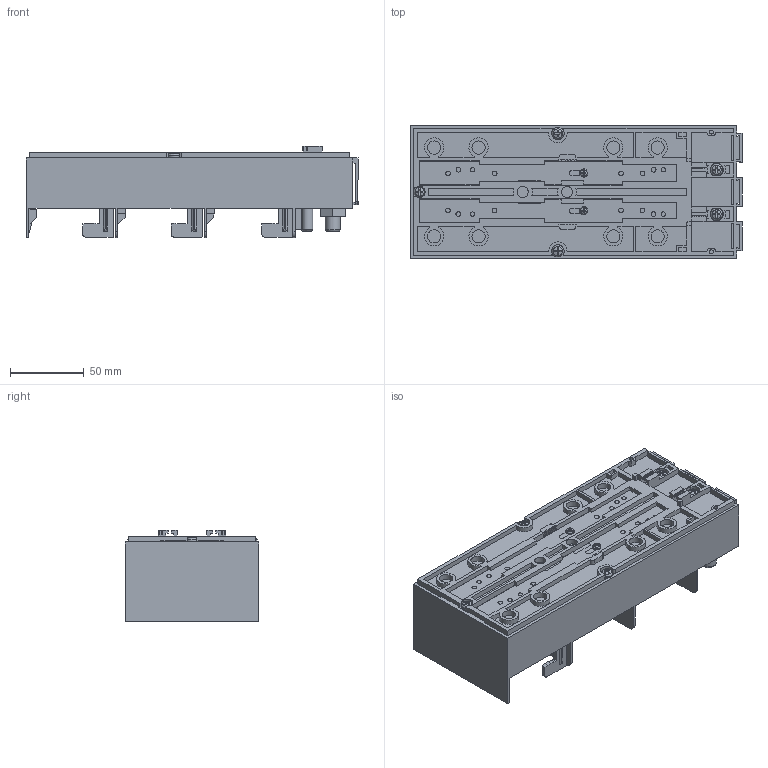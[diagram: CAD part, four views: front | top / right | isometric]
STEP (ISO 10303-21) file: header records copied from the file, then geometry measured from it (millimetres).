
FILE_DESCRIPTION (( 'STEP AP203' ), '1' );
FILE_NAME ('55160.STEP', '2021-08-19T05:28:01', ( '' ), ( '' ), 'SwSTEP 2.0', 'SolidWorks 2017', '' );
FILE_SCHEMA (( 'CONFIG_CONTROL_DESIGN' ));
Length unit declared in the file: millimetre
Products named in the file (2): 55160
Bounding box: 224.5 x 90 x 62 mm (x, y, z)
Surface area: 129043.3 mm2 (no closed solid volume)
Topology: 0 solids, 29 shells, 1249 faces, 3319 edges, 2176 vertices
Faces by surface type: plane 824, cylinder 328, cone 61, bspline 33, torus 3
Full cylindrical faces by diameter (mm): 2.7 x2, 2.9 x2, 3 x4, 3.2 x15, 4 x5, 4.2 x8, 5.6 x2, 6 x6, 6.5 x6, 7.5 x2, 8 x8, 9 x8, 10 x3, 14 x3
Entity records: 39939 total; most frequent: CARTESIAN_POINT 9442, ORIENTED_EDGE 6294, DIRECTION 6030, EDGE_CURVE 3149, VECTOR 2202, LINE 2202, VERTEX_POINT 2131, AXIS2_PLACEMENT_3D 1914
